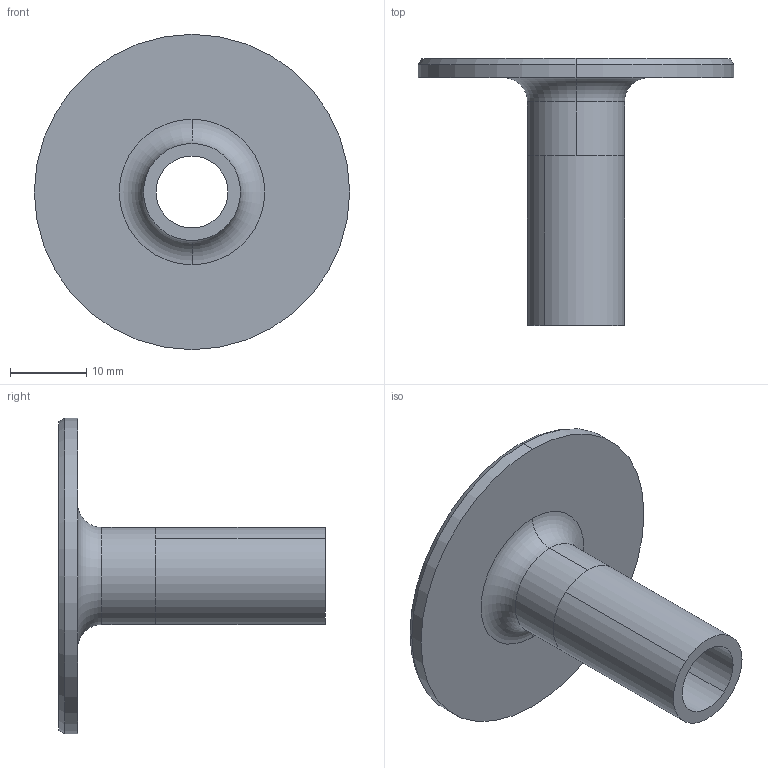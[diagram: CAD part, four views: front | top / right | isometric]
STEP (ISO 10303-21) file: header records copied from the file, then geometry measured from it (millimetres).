
FILE_DESCRIPTION (( 'STEP AP203' ), '1' );
FILE_NAME ('E14WA.50.STEP', '2018-05-04T16:49:56', ( 'vneprd' ), ( 'Microsoft' ), 'SwSTEP 2.0', 'SolidWorks 2014', '' );
FILE_SCHEMA (( 'CONFIG_CONTROL_DESIGN' ));
Length unit declared in the file: inch
Products named in the file (3): V14WAB.50; TUBE.50X.875; E14WA.50
Assembly tree (2 placements, depth 2):
  E14WA.50
    V14WAB.50
    TUBE.50X.875
Bounding box: 41.27 x 34.92 x 41.27 mm (x, y, z)
Volume: 4613.5 mm3; surface area: 6415.8 mm2
Topology: 2 solids, 2 shells, 87 faces, 174 edges, 92 vertices
Faces by surface type: cone 70, cylinder 10, plane 5, torus 2
Entity records: 2525 total; most frequent: DIRECTION 452, CARTESIAN_POINT 358, ORIENTED_EDGE 348, AXIS2_PLACEMENT_3D 186, EDGE_CURVE 174, CIRCLE 94, VERTEX_POINT 92, EDGE_LOOP 92
